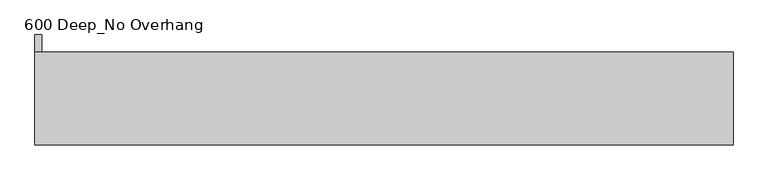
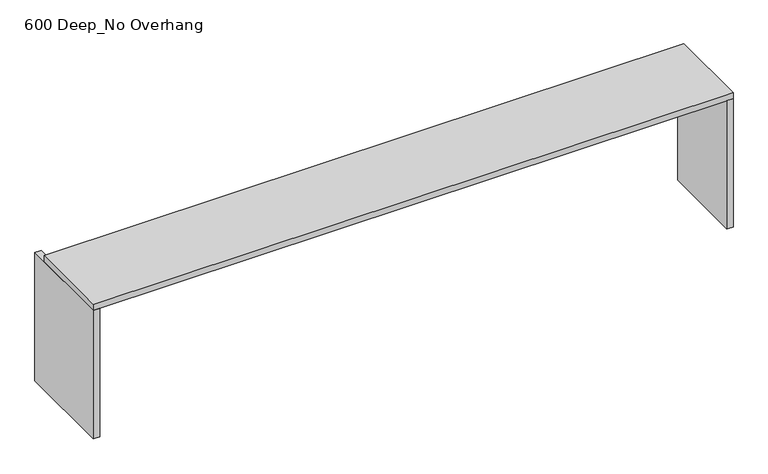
"""IFC4 building model written with IfcOpenShell, lengths in millimetres: furniture geometry, Benchtop_Optional Hole_I Shaped_CAS : 600 Deep_No Overhang."""

from ifc_helpers import new_model, si_unit, frame, origin, origin_with_axes, place, context, project, spatial, polyline, outline, extrude, source, transform, mapped, element, save


def furniture_600_deep_no_overhang_c708e5bb(model_context):
    return source(origin(), model_context, "Body", "SweptSolid", [
        extrude(outline(polyline([(2857.9981769, -540.0), (2857.9981769, 0.0), (2897.9981769, 0.0), (2897.9981769, -540.0), (2857.9981769, -540.0)])), origin_with_axes(), (0.0, 0.0, 1.0), 860.0),
        extrude(outline(polyline([(-1115.2996736, 100.0), (-1115.2996736, -540.0), (-1155.2996736, -540.0), (-1155.2996736, 100.0), (-1115.2996736, 100.0)])), origin_with_axes(), (0.0, 0.0, 1.0), 860.0),
        extrude(outline(polyline([(2897.9981769, 0.0), (2897.9981769, -540.0), (-1155.2996736, -540.0), (-1155.2996736, 0.0), (2897.9981769, 0.0)])), frame((0.0, 0.0, 860.0), z_axis=(0.0, 0.0, 1.0), x_axis=(1.0, 0.0, 0.0)), (0.0, 0.0, 1.0), 40.0),
    ])


if __name__ == "__main__":
    model = new_model("IFC4")
    model_context = context("Model", 3, world=origin())
    ifc_project = project(units=[si_unit("LENGTHUNIT", "METRE", prefix="MILLI")], contexts=[model_context])
    site = spatial("IfcSite", under=ifc_project)
    building = spatial("IfcBuilding", under=site)
    placement = place(None, origin())
    furniture_600_deep_no_overhang_shape = furniture_600_deep_no_overhang_c708e5bb(model_context)
    element("IfcFurniture", 1, ObjectType="Benchtop_Optional Hole_I Shaped_CAS : 600 Deep_No Overhang", at=placement, inside=building, context=model_context, shape_type="MappedRepresentation", body=[
        mapped(furniture_600_deep_no_overhang_shape, transform((0.0, 0.0, 0.0), x_axis=(1.0, 0.0, 0.0), y_axis=(0.0, 1.0, 0.0), z_axis=(0.0, 0.0, 1.0))),
    ])
    save(model, "model.ifc")
